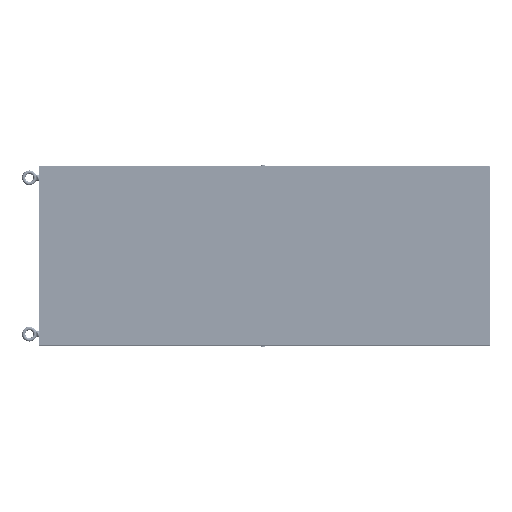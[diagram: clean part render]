
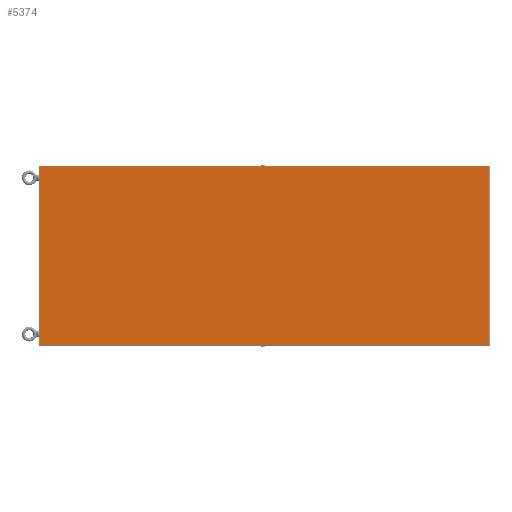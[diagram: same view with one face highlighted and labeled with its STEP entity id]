
A CAD part, front view. The second image highlights one B-rep face of the part: STEP entity #5374.
In plain terms, the highlighted planar face has unit normal (0, -1, 0) as drawn and (0, 0, 1) by its records, which use the part's own axes.
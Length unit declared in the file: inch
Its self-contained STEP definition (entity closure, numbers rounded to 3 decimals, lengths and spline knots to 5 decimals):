
#2127=DIRECTION('',(1.,0.,0.));
#2128=VECTOR('',#2127,78.532);
#2129=CARTESIAN_POINT('',(0.,0.2465,0.052));
#2130=LINE('',#2129,#2128);
#2157=CARTESIAN_POINT('',(0.015,31.377,0.052));
#2158=DIRECTION('',(0.,0.,1.));
#2159=DIRECTION('',(0.,1.,0.));
#2160=AXIS2_PLACEMENT_3D('',#2157,#2158,#2159);
#2165=DIRECTION('',(-1.,0.,0.));
#2166=VECTOR('',#2165,78.502);
#2167=CARTESIAN_POINT('',(78.517,31.392,0.052));
#2168=LINE('',#2167,#2166);
#2172=CARTESIAN_POINT('',(78.517,31.377,0.052));
#2173=DIRECTION('',(0.,0.,1.));
#2174=DIRECTION('',(1.,0.,0.));
#2175=AXIS2_PLACEMENT_3D('',#2172,#2173,#2174);
#2180=DIRECTION('',(0.,1.,0.));
#2181=VECTOR('',#2180,31.1305);
#2182=CARTESIAN_POINT('',(78.532,0.2465,0.052));
#2183=LINE('',#2182,#2181);
#2187=DIRECTION('',(0.,-1.,0.));
#2188=VECTOR('',#2187,31.1305);
#2189=CARTESIAN_POINT('',(0.,31.377,0.052));
#2190=LINE('',#2189,#2188);
#3591=CARTESIAN_POINT('',(0.,0.2465,0.052));
#3592=CARTESIAN_POINT('',(78.532,0.2465,0.052));
#3593=VERTEX_POINT('',#3591);
#3594=VERTEX_POINT('',#3592);
#3607=CARTESIAN_POINT('',(0.015,31.392,0.052));
#3608=CARTESIAN_POINT('',(0.,31.377,0.052));
#3609=VERTEX_POINT('',#3607);
#3610=VERTEX_POINT('',#3608);
#3615=CARTESIAN_POINT('',(78.532,31.377,0.052));
#3616=CARTESIAN_POINT('',(78.517,31.392,0.052));
#3617=VERTEX_POINT('',#3615);
#3618=VERTEX_POINT('',#3616);
#5356=CARTESIAN_POINT('',(78.532,0.,0.052));
#5357=DIRECTION('',(0.,0.,1.));
#5358=DIRECTION('',(1.,0.,0.));
#5359=AXIS2_PLACEMENT_3D('',#5356,#5357,#5358);
#5360=PLANE('',#5359);
#5362=ORIENTED_EDGE('',*,*,#5361,.F.);
#5364=ORIENTED_EDGE('',*,*,#5363,.F.);
#5366=ORIENTED_EDGE('',*,*,#5365,.F.);
#5368=ORIENTED_EDGE('',*,*,#5367,.F.);
#5369=ORIENTED_EDGE('',*,*,#5347,.F.);
#5371=ORIENTED_EDGE('',*,*,#5370,.F.);
#5372=EDGE_LOOP('',(#5362,#5364,#5366,#5368,#5369,#5371));
#5373=FACE_OUTER_BOUND('',#5372,.F.);
#2161=CIRCLE('',#2160,0.015);
#2176=CIRCLE('',#2175,0.015);
#5347=EDGE_CURVE('',#3593,#3594,#2130,.T.);
#5361=EDGE_CURVE('',#3609,#3610,#2161,.T.);
#5363=EDGE_CURVE('',#3618,#3609,#2168,.T.);
#5365=EDGE_CURVE('',#3617,#3618,#2176,.T.);
#5367=EDGE_CURVE('',#3594,#3617,#2183,.T.);
#5370=EDGE_CURVE('',#3610,#3593,#2190,.T.);
#5374=ADVANCED_FACE('',(#5373),#5360,.T.);
